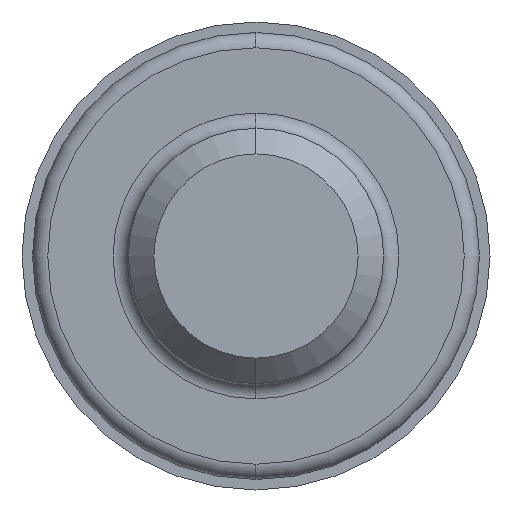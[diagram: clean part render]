
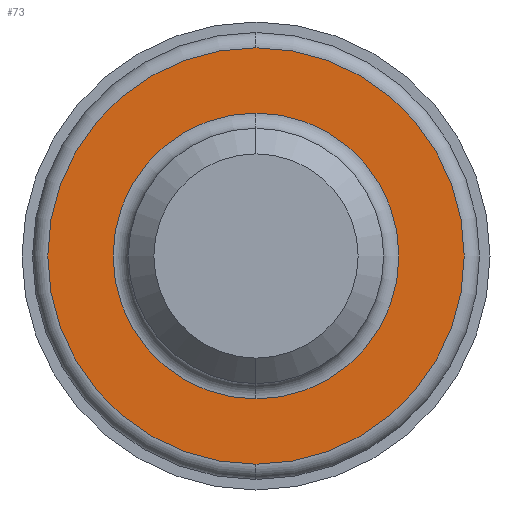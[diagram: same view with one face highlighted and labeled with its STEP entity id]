
A CAD part, left-side view. The second image highlights one B-rep face of the part: STEP entity #73.
In plain terms, the highlighted planar face has unit normal (-1, 0, 0).
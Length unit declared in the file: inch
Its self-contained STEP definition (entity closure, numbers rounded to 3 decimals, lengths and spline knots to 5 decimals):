
#26 = CARTESIAN_POINT ( 'NONE',  ( 1.875, 0., -0.27985 ) ) ;
#32 = VERTEX_POINT ( 'NONE', #529 ) ;
#73 = ADVANCED_FACE ( 'NONE', ( #638, #85 ), #469, .F. ) ;
#83 = DIRECTION ( 'NONE',  ( -1., 0., 0. ) ) ;
#85 = FACE_OUTER_BOUND ( 'NONE', #237, .T. ) ;
#125 = VERTEX_POINT ( 'NONE', #571 ) ;
#145 = EDGE_CURVE ( 'NONE', #32, #125, #600, .T. ) ;
#176 = DIRECTION ( 'NONE',  ( 0., 0., 1. ) ) ;
#195 = CARTESIAN_POINT ( 'NONE',  ( 1.875, 0., 0. ) ) ;
#198 = AXIS2_PLACEMENT_3D ( 'NONE', #305, #526, #362 ) ;
#221 = CARTESIAN_POINT ( 'NONE',  ( 1.875, 0., 0. ) ) ;
#234 = EDGE_LOOP ( 'NONE', ( #568, #336 ) ) ;
#237 = EDGE_LOOP ( 'NONE', ( #440, #441 ) ) ;
#305 = CARTESIAN_POINT ( 'NONE',  ( 1.875, 0.4075, 0. ) ) ;
#336 = ORIENTED_EDGE ( 'NONE', *, *, #531, .F. ) ;
#340 = AXIS2_PLACEMENT_3D ( 'NONE', #221, #596, #176 ) ;
#347 = EDGE_CURVE ( 'NONE', #567, #660, #352, .T. ) ;
#352 = CIRCLE ( 'NONE', #448, 0.27985 ) ;
#362 = DIRECTION ( 'NONE',  ( 0., 0., -1. ) ) ;
#368 = CARTESIAN_POINT ( 'NONE',  ( 1.875, 0., 0. ) ) ;
#401 = CARTESIAN_POINT ( 'NONE',  ( 1.875, 0., 0. ) ) ;
#403 = CIRCLE ( 'NONE', #559, 0.27985 ) ;
#421 = AXIS2_PLACEMENT_3D ( 'NONE', #195, #570, #678 ) ;
#440 = ORIENTED_EDGE ( 'NONE', *, *, #145, .T. ) ;
#441 = ORIENTED_EDGE ( 'NONE', *, *, #496, .T. ) ;
#448 = AXIS2_PLACEMENT_3D ( 'NONE', #368, #693, #641 ) ;
#453 = DIRECTION ( 'NONE',  ( 0., 0., 1. ) ) ;
#469 = PLANE ( 'NONE',  #198 ) ;
#496 = EDGE_CURVE ( 'NONE', #125, #32, #574, .T. ) ;
#526 = DIRECTION ( 'NONE',  ( 1., 0., 0. ) ) ;
#529 = CARTESIAN_POINT ( 'NONE',  ( 1.875, 0., 0.4075 ) ) ;
#531 = EDGE_CURVE ( 'NONE', #660, #567, #403, .T. ) ;
#559 = AXIS2_PLACEMENT_3D ( 'NONE', #401, #83, #453 ) ;
#567 = VERTEX_POINT ( 'NONE', #651 ) ;
#568 = ORIENTED_EDGE ( 'NONE', *, *, #347, .F. ) ;
#570 = DIRECTION ( 'NONE',  ( -1., 0., 0. ) ) ;
#571 = CARTESIAN_POINT ( 'NONE',  ( 1.875, 0., -0.4075 ) ) ;
#574 = CIRCLE ( 'NONE', #340, 0.4075 ) ;
#596 = DIRECTION ( 'NONE',  ( -1., 0., 0. ) ) ;
#600 = CIRCLE ( 'NONE', #421, 0.4075 ) ;
#638 = FACE_BOUND ( 'NONE', #234, .T. ) ;
#641 = DIRECTION ( 'NONE',  ( 0., 0., 1. ) ) ;
#651 = CARTESIAN_POINT ( 'NONE',  ( 1.875, 0., 0.27985 ) ) ;
#660 = VERTEX_POINT ( 'NONE', #26 ) ;
#678 = DIRECTION ( 'NONE',  ( 0., 0., 1. ) ) ;
#693 = DIRECTION ( 'NONE',  ( -1., 0., 0. ) ) ;
